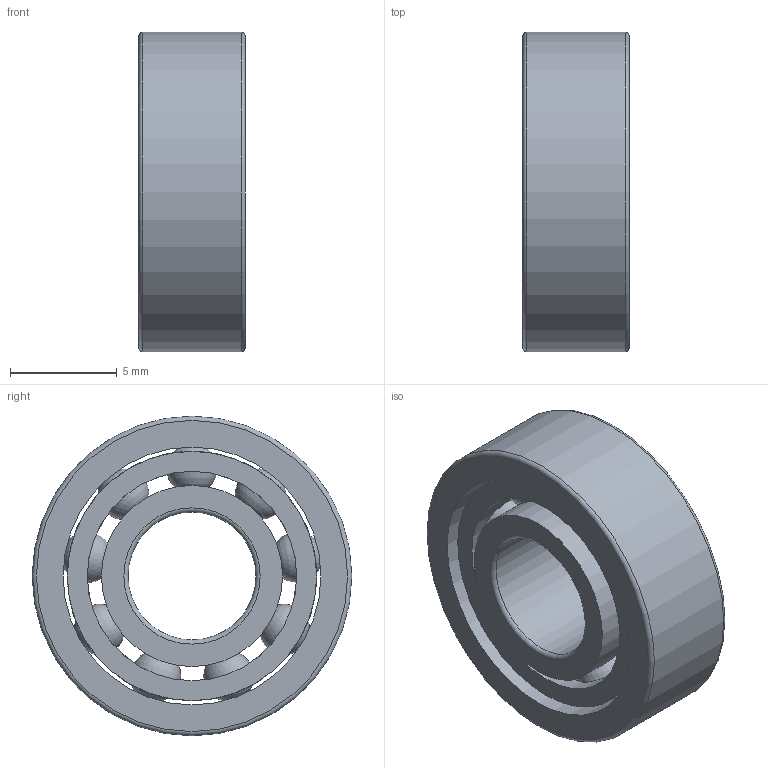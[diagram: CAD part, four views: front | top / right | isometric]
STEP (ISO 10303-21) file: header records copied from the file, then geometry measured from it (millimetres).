
FILE_DESCRIPTION(/* description */ (''),/* implementation_level */ '2;1');
FILE_NAME(/* name */ 'S_6196_TA.step',/* time_stamp */ '2013-03-06T14:46:41+01:00',/* author */ ('Marian'),/* organization */ ('GMN'),/* preprocessor_version */ 'ST-DEVELOPER v11',/* originating_system */ 'SIEMENS UGS NX 6.0',/* authorisation */ '');
FILE_SCHEMA (('CONFIG_CONTROL_DESIGN'));
Length unit declared in the file: millimetre
Products named in the file (1): S_6196_TA
Bounding box: 5 x 15 x 15 mm (x, y, z)
Volume: 559 mm3; surface area: 1287.8 mm2
Topology: 12 solids, 12 shells, 38 faces, 88 edges, 56 vertices
Faces by surface type: cylinder 16, sphere 9, torus 6, plane 6, cone 1
Full cylindrical faces by diameter (mm): 2.581 x9, 6 x1, 8.5 x2, 9.821 x1, 11.7 x1, 12.1 x1, 15 x1
Entity records: 1884 total; most frequent: CARTESIAN_POINT 1150, DIRECTION 118, FACE_BOUND 85, EDGE_LOOP 76, ORIENTED_EDGE 76, AXIS2_PLACEMENT_3D 59, VERTEX_POINT 47, EDGE_CURVE 38
